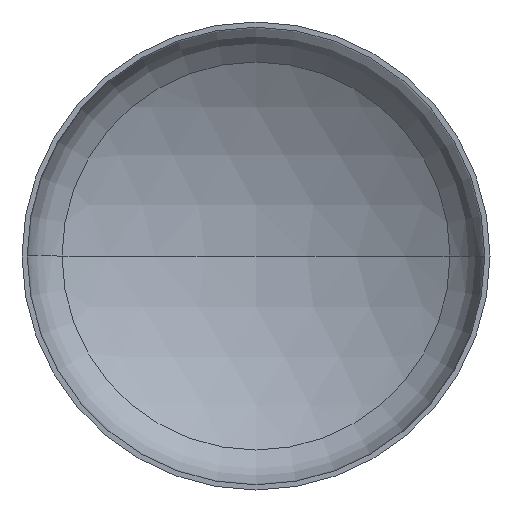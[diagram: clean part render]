
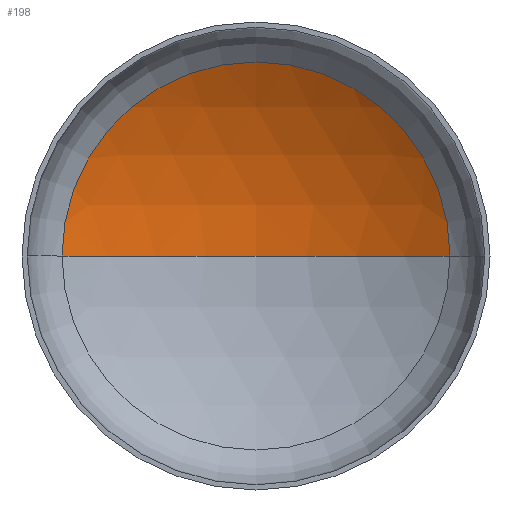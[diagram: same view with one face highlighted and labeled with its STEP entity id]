
A CAD part, front view. The second image highlights one B-rep face of the part: STEP entity #198.
In plain terms, the highlighted spherical face has radius 4000 mm.
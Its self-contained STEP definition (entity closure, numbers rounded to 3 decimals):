
#3 = DIRECTION ( 'NONE',  ( 0., 0., -1. ) ) ;
#10 = CARTESIAN_POINT ( 'NONE',  ( 0., 1357.642, 0. ) ) ;
#15 = EDGE_LOOP ( 'NONE', ( #352, #19, #182 ) ) ;
#19 = ORIENTED_EDGE ( 'NONE', *, *, #312, .T. ) ;
#20 = CARTESIAN_POINT ( 'NONE',  ( 0., -2642.358, 0. ) ) ;
#29 = VERTEX_POINT ( 'NONE', #246 ) ;
#31 = AXIS2_PLACEMENT_3D ( 'NONE', #410, #197, #315 ) ;
#36 = AXIS2_PLACEMENT_3D ( 'NONE', #143, #204, #370 ) ;
#38 = AXIS2_PLACEMENT_3D ( 'NONE', #136, #131, #132 ) ;
#56 = AXIS2_PLACEMENT_3D ( 'NONE', #20, #3, #320 ) ;
#58 = SPHERICAL_SURFACE ( 'NONE', #56, 4000. ) ;
#83 = VERTEX_POINT ( 'NONE', #362 ) ;
#131 = DIRECTION ( 'NONE',  ( 0., -1., 0. ) ) ;
#132 = DIRECTION ( 'NONE',  ( 1., 0., 0. ) ) ;
#136 = CARTESIAN_POINT ( 'NONE',  ( 0., 778.519, 0. ) ) ;
#143 = CARTESIAN_POINT ( 'NONE',  ( 0., -2642.358, 0. ) ) ;
#180 = VERTEX_POINT ( 'NONE', #10 ) ;
#182 = ORIENTED_EDGE ( 'NONE', *, *, #306, .T. ) ;
#191 = FACE_OUTER_BOUND ( 'NONE', #15, .T. ) ;
#197 = DIRECTION ( 'NONE',  ( 0., 0., 1. ) ) ;
#198 = ADVANCED_FACE ( 'NONE', ( #191 ), #58, .F. ) ;
#204 = DIRECTION ( 'NONE',  ( 0., 0., -1. ) ) ;
#230 = CIRCLE ( 'NONE', #31, 4000. ) ;
#240 = CIRCLE ( 'NONE', #36, 4000. ) ;
#246 = CARTESIAN_POINT ( 'NONE',  ( 2073.065, 778.519, 0. ) ) ;
#295 = CIRCLE ( 'NONE', #38, 2073.065 ) ;
#306 = EDGE_CURVE ( 'NONE', #29, #83, #295, .T. ) ;
#312 = EDGE_CURVE ( 'NONE', #180, #29, #240, .T. ) ;
#315 = DIRECTION ( 'NONE',  ( 1., 0., 0. ) ) ;
#316 = EDGE_CURVE ( 'NONE', #180, #83, #230, .T. ) ;
#320 = DIRECTION ( 'NONE',  ( -1., 0., 0. ) ) ;
#352 = ORIENTED_EDGE ( 'NONE', *, *, #316, .F. ) ;
#362 = CARTESIAN_POINT ( 'NONE',  ( -2073.065, 778.519, 0. ) ) ;
#370 = DIRECTION ( 'NONE',  ( -1., 0., 0. ) ) ;
#410 = CARTESIAN_POINT ( 'NONE',  ( 0., -2642.358, 0. ) ) ;
